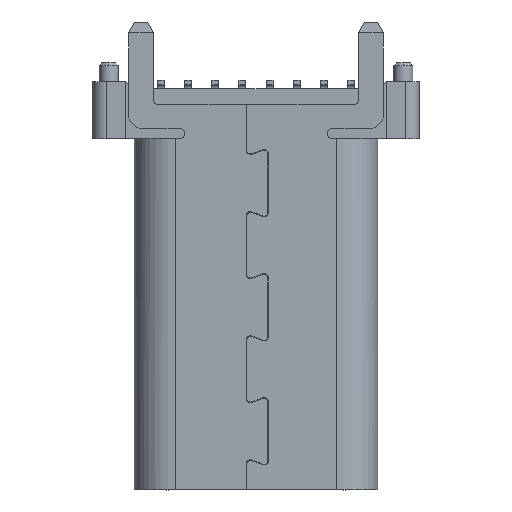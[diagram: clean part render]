
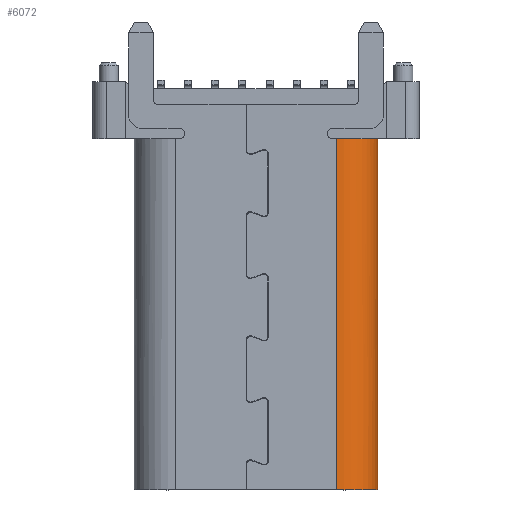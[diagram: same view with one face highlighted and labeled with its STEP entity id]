
A CAD part, front view. The second image highlights one B-rep face of the part: STEP entity #6072.
In plain terms, the highlighted cylindrical face has radius 1.5 mm (diameter 3 mm), a partial arc.
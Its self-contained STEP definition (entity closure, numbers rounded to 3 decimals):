
#229 = CARTESIAN_POINT ( 'NONE',  ( 2.97, -0.08, -5.15 ) ) ;
#436 = DIRECTION ( 'NONE',  ( 0.617, -0.787, 0. ) ) ;
#1199 = CARTESIAN_POINT ( 'NONE',  ( 4.47, -0.08, -5.15 ) ) ;
#1840 = ORIENTED_EDGE ( 'NONE', *, *, #8233, .F. ) ;
#3717 = CYLINDRICAL_SURFACE ( 'NONE', #5563, 1.5 ) ;
#4035 = EDGE_LOOP ( 'NONE', ( #7855, #1840, #16769, #14916, #9050 ) ) ;
#4063 = EDGE_CURVE ( 'NONE', #18821, #14172, #5193, .T. ) ;
#4196 = CIRCLE ( 'NONE', #6263, 1.5 ) ;
#4275 = DIRECTION ( 'NONE',  ( 0., 0., -1. ) ) ;
#4408 = DIRECTION ( 'NONE',  ( 0., 0., -1. ) ) ;
#4664 = EDGE_CURVE ( 'NONE', #11356, #14172, #10696, .T. ) ;
#4794 = EDGE_CURVE ( 'NONE', #13568, #11356, #4196, .T. ) ;
#5193 = CIRCLE ( 'NONE', #7949, 1.5 ) ;
#5195 = CARTESIAN_POINT ( 'NONE',  ( 2.97, -0.08, -18.05 ) ) ;
#5563 = AXIS2_PLACEMENT_3D ( 'NONE', #5632, #13735, #10236 ) ;
#5632 = CARTESIAN_POINT ( 'NONE',  ( 2.97, -0.08, -40.602 ) ) ;
#6072 = ADVANCED_FACE ( 'NONE', ( #18519 ), #3717, .T. ) ;
#6263 = AXIS2_PLACEMENT_3D ( 'NONE', #229, #10248, #436 ) ;
#6552 = LINE ( 'NONE', #12954, #19482 ) ;
#7254 = AXIS2_PLACEMENT_3D ( 'NONE', #11789, #4408, #14012 ) ;
#7561 = CARTESIAN_POINT ( 'NONE',  ( 2.97, -1.58, -5.15 ) ) ;
#7855 = ORIENTED_EDGE ( 'NONE', *, *, #8063, .T. ) ;
#7949 = AXIS2_PLACEMENT_3D ( 'NONE', #5195, #8314, #12996 ) ;
#8063 = EDGE_CURVE ( 'NONE', #13568, #17322, #14397, .T. ) ;
#8233 = EDGE_CURVE ( 'NONE', #18821, #17322, #6552, .T. ) ;
#8314 = DIRECTION ( 'NONE',  ( 0., 0., 1. ) ) ;
#9050 = ORIENTED_EDGE ( 'NONE', *, *, #4794, .F. ) ;
#10236 = DIRECTION ( 'NONE',  ( 0., -1., 0. ) ) ;
#10248 = DIRECTION ( 'NONE',  ( 0., 0., 1. ) ) ;
#10696 = LINE ( 'NONE', #1199, #20514 ) ;
#11356 = VERTEX_POINT ( 'NONE', #15334 ) ;
#11789 = CARTESIAN_POINT ( 'NONE',  ( 2.97, -0.08, -5.15 ) ) ;
#12954 = CARTESIAN_POINT ( 'NONE',  ( 2.97, -1.58, -18.05 ) ) ;
#12996 = DIRECTION ( 'NONE',  ( 0., -1., 0. ) ) ;
#13568 = VERTEX_POINT ( 'NONE', #14189 ) ;
#13696 = CARTESIAN_POINT ( 'NONE',  ( 4.47, -0.08, -18.05 ) ) ;
#13735 = DIRECTION ( 'NONE',  ( 0., 0., 1. ) ) ;
#14012 = DIRECTION ( 'NONE',  ( 0.617, -0.787, 0. ) ) ;
#14172 = VERTEX_POINT ( 'NONE', #13696 ) ;
#14189 = CARTESIAN_POINT ( 'NONE',  ( 3.896, -1.26, -5.15 ) ) ;
#14397 = CIRCLE ( 'NONE', #7254, 1.5 ) ;
#14916 = ORIENTED_EDGE ( 'NONE', *, *, #4664, .F. ) ;
#15334 = CARTESIAN_POINT ( 'NONE',  ( 4.47, -0.08, -5.15 ) ) ;
#16769 = ORIENTED_EDGE ( 'NONE', *, *, #4063, .T. ) ;
#17322 = VERTEX_POINT ( 'NONE', #7561 ) ;
#18519 = FACE_OUTER_BOUND ( 'NONE', #4035, .T. ) ;
#18821 = VERTEX_POINT ( 'NONE', #20640 ) ;
#19482 = VECTOR ( 'NONE', #20918, 1000. ) ;
#20514 = VECTOR ( 'NONE', #4275, 1000. ) ;
#20640 = CARTESIAN_POINT ( 'NONE',  ( 2.97, -1.58, -18.05 ) ) ;
#20918 = DIRECTION ( 'NONE',  ( 0., 0., 1. ) ) ;
